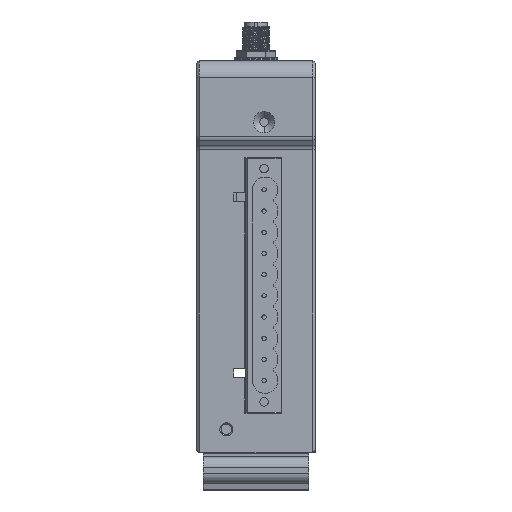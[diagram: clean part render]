
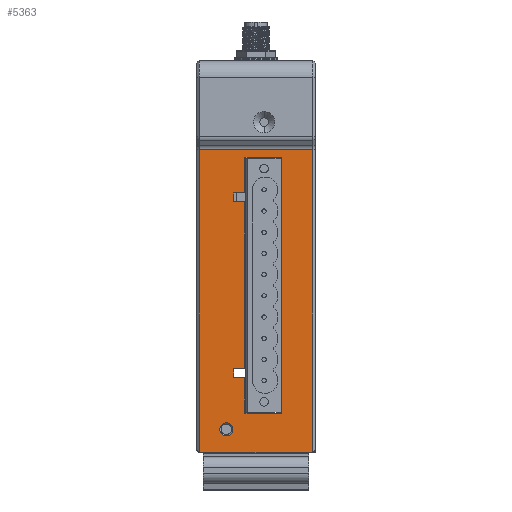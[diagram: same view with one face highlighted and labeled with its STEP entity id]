
A CAD part, left-side view. The second image highlights one B-rep face of the part: STEP entity #5363.
In plain terms, the highlighted planar face has unit normal (-1, 0, 0).
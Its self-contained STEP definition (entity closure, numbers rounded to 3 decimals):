
#353=CARTESIAN_POINT('',(-62.5,13.4,-44.917));
#1190=DIRECTION('',(0.,1.,0.));
#1191=VECTOR('',#1190,26.8);
#1192=CARTESIAN_POINT('',(-62.5,-13.4,
26.5));
#1193=LINE('',#1192,#1191);
#1198=DIRECTION('',(0.,1.,0.));
#1199=VECTOR('',#1198,26.);
#1200=CARTESIAN_POINT('',(-62.5,-13.,-45.));
#1201=LINE('',#1200,#1199);
#1202=CARTESIAN_POINT('',(-62.5,13.,-44.));
#1203=DIRECTION('',(1.,0.,0.));
#1204=DIRECTION('',(0.,0.,-1.));
#1205=AXIS2_PLACEMENT_3D('',#1202,#1203,#1204);
#1207=DIRECTION('',(0.,0.,1.));
#1208=VECTOR('',#1207,71.417);
#1209=CARTESIAN_POINT('',(-62.5,13.4,
-44.917));
#1210=LINE('',#1209,#1208);
#1211=CARTESIAN_POINT('',(-62.5,-13.,-44.));
#1212=DIRECTION('',(1.,0.,0.));
#1213=DIRECTION('',(0.,-0.4,-0.917));
#1214=AXIS2_PLACEMENT_3D('',#1211,#1212,#1213);
#1216=DIRECTION('',(0.,1.,0.));
#1217=VECTOR('',#1216,2.6);
#1218=CARTESIAN_POINT('',(-62.5,2.6,-25.175));
#1219=LINE('',#1218,#1217);
#1220=DIRECTION('',(0.,-1.,0.));
#1221=VECTOR('',#1220,2.6);
#1222=CARTESIAN_POINT('',(-62.5,5.2,-27.275));
#1223=LINE('',#1222,#1221);
#1224=DIRECTION('',(0.,0.,-1.));
#1225=VECTOR('',#1224,8.425);
#1226=CARTESIAN_POINT('',(-62.5,2.6,-27.275));
#1227=LINE('',#1226,#1225);
#1228=DIRECTION('',(0.,-1.,0.));
#1229=VECTOR('',#1228,8.6);
#1230=CARTESIAN_POINT('',(-62.5,2.6,-35.7));
#1231=LINE('',#1230,#1229);
#1232=DIRECTION('',(0.,0.,1.));
#1233=VECTOR('',#1232,60.4);
#1234=CARTESIAN_POINT('',(-62.5,-6.,-35.7));
#1235=LINE('',#1234,#1233);
#1236=DIRECTION('',(0.,1.,0.));
#1237=VECTOR('',#1236,8.6);
#1238=CARTESIAN_POINT('',(-62.5,-6.,24.7));
#1239=LINE('',#1238,#1237);
#1240=DIRECTION('',(0.,0.,-1.));
#1241=VECTOR('',#1240,8.425);
#1242=CARTESIAN_POINT('',(-62.5,2.6,24.7));
#1243=LINE('',#1242,#1241);
#1244=DIRECTION('',(0.,1.,0.));
#1245=VECTOR('',#1244,2.6);
#1246=CARTESIAN_POINT('',(-62.5,2.6,16.275));
#1247=LINE('',#1246,#1245);
#1248=DIRECTION('',(0.,0.,-1.));
#1249=VECTOR('',#1248,2.1);
#1250=CARTESIAN_POINT('',(-62.5,5.2,16.275));
#1251=LINE('',#1250,#1249);
#1252=DIRECTION('',(0.,-1.,0.));
#1253=VECTOR('',#1252,2.6);
#1254=CARTESIAN_POINT('',(-62.5,5.2,14.175));
#1255=LINE('',#1254,#1253);
#1256=DIRECTION('',(0.,0.,-1.));
#1257=VECTOR('',#1256,39.35);
#1258=CARTESIAN_POINT('',(-62.5,2.6,14.175));
#1259=LINE('',#1258,#1257);
#1260=CARTESIAN_POINT('',(-62.5,7.,-39.5));
#1261=DIRECTION('',(-1.,0.,0.));
#1262=DIRECTION('',(0.,0.,1.));
#1263=AXIS2_PLACEMENT_3D('',#1260,#1261,#1262);
#1265=CARTESIAN_POINT('',(-62.5,7.,-39.5));
#1266=DIRECTION('',(-1.,0.,0.));
#1267=DIRECTION('',(0.,0.,-1.));
#1268=AXIS2_PLACEMENT_3D('',#1265,#1266,#1267);
#1341=DIRECTION('',(0.,0.,1.));
#1342=VECTOR('',#1341,71.417);
#1343=CARTESIAN_POINT('',(-62.5,-13.4,
-44.917));
#1344=LINE('',#1343,#1342);
#1796=DIRECTION('',(0.,0.,1.));
#1797=VECTOR('',#1796,2.1);
#1798=CARTESIAN_POINT('',(-62.5,5.2,-27.275));
#1799=LINE('',#1798,#1797);
#3461=CARTESIAN_POINT('',(-62.5,13.,-45.));
#3462=VERTEX_POINT('',#3461);
#3465=VERTEX_POINT('',#353);
#3474=CARTESIAN_POINT('',(-62.5,-13.,-45.));
#3475=VERTEX_POINT('',#3474);
#3730=CARTESIAN_POINT('',(-62.5,-13.4,
26.5));
#3731=CARTESIAN_POINT('',(-62.5,13.4,26.5));
#3732=VERTEX_POINT('',#3730);
#3733=VERTEX_POINT('',#3731);
#3734=CARTESIAN_POINT('',(-62.5,-13.4,
-44.917));
#3735=VERTEX_POINT('',#3734);
#3736=CARTESIAN_POINT('',(-62.5,2.6,-25.175));
#3737=CARTESIAN_POINT('',(-62.5,5.2,-25.175));
#3738=VERTEX_POINT('',#3736);
#3739=VERTEX_POINT('',#3737);
#3740=CARTESIAN_POINT('',(-62.5,5.2,-27.275));
#3741=VERTEX_POINT('',#3740);
#3742=CARTESIAN_POINT('',(-62.5,2.6,-27.275));
#3743=VERTEX_POINT('',#3742);
#3744=CARTESIAN_POINT('',(-62.5,2.6,-35.7));
#3745=VERTEX_POINT('',#3744);
#3746=CARTESIAN_POINT('',(-62.5,-6.,-35.7));
#3747=VERTEX_POINT('',#3746);
#3748=CARTESIAN_POINT('',(-62.5,-6.,24.7));
#3749=VERTEX_POINT('',#3748);
#3750=CARTESIAN_POINT('',(-62.5,2.6,24.7));
#3751=VERTEX_POINT('',#3750);
#3752=CARTESIAN_POINT('',(-62.5,2.6,16.275));
#3753=VERTEX_POINT('',#3752);
#3754=CARTESIAN_POINT('',(-62.5,5.2,16.275));
#3755=VERTEX_POINT('',#3754);
#3756=CARTESIAN_POINT('',(-62.5,5.2,14.175));
#3757=VERTEX_POINT('',#3756);
#3758=CARTESIAN_POINT('',(-62.5,2.6,14.175));
#3759=VERTEX_POINT('',#3758);
#3760=CARTESIAN_POINT('',(-62.5,7.,
-37.95));
#3761=CARTESIAN_POINT('',(-62.5,7.,-41.05));
#3762=VERTEX_POINT('',#3760);
#3763=VERTEX_POINT('',#3761);
#5315=CARTESIAN_POINT('',(-62.5,-14.,-45.));
#5316=DIRECTION('',(-1.,0.,0.));
#5317=DIRECTION('',(0.,0.,1.));
#5318=AXIS2_PLACEMENT_3D('',#5315,#5316,#5317);
#5319=PLANE('',#5318);
#5320=ORIENTED_EDGE('',*,*,#4605,.T.);
#5321=ORIENTED_EDGE('',*,*,#4585,.T.);
#5323=ORIENTED_EDGE('',*,*,#5322,.T.);
#5324=ORIENTED_EDGE('',*,*,#5305,.F.);
#5326=ORIENTED_EDGE('',*,*,#5325,.F.);
#5328=ORIENTED_EDGE('',*,*,#5327,.T.);
#5329=EDGE_LOOP('',(#5320,#5321,#5323,#5324,#5326,#5328));
#5330=FACE_OUTER_BOUND('',#5329,.F.);
#5332=ORIENTED_EDGE('',*,*,#5331,.T.);
#5334=ORIENTED_EDGE('',*,*,#5333,.F.);
#5336=ORIENTED_EDGE('',*,*,#5335,.T.);
#5338=ORIENTED_EDGE('',*,*,#5337,.T.);
#5340=ORIENTED_EDGE('',*,*,#5339,.T.);
#5342=ORIENTED_EDGE('',*,*,#5341,.T.);
#5344=ORIENTED_EDGE('',*,*,#5343,.T.);
#5346=ORIENTED_EDGE('',*,*,#5345,.T.);
#5348=ORIENTED_EDGE('',*,*,#5347,.T.);
#5350=ORIENTED_EDGE('',*,*,#5349,.T.);
#5352=ORIENTED_EDGE('',*,*,#5351,.T.);
#5354=ORIENTED_EDGE('',*,*,#5353,.T.);
#5355=EDGE_LOOP('',(#5332,#5334,#5336,#5338,#5340,#5342,#5344,#5346,#5348,#5350,
#5352,#5354));
#5356=FACE_BOUND('',#5355,.F.);
#5358=ORIENTED_EDGE('',*,*,#5357,.T.);
#5360=ORIENTED_EDGE('',*,*,#5359,.T.);
#5361=EDGE_LOOP('',(#5358,#5360));
#5362=FACE_BOUND('',#5361,.F.);
#1206=CIRCLE('',#1205,1.);
#1215=CIRCLE('',#1214,1.);
#1264=CIRCLE('',#1263,1.55);
#1269=CIRCLE('',#1268,1.55);
#4585=EDGE_CURVE('',#3462,#3465,#1206,.T.);
#4605=EDGE_CURVE('',#3475,#3462,#1201,.T.);
#5305=EDGE_CURVE('',#3732,#3733,#1193,.T.);
#5322=EDGE_CURVE('',#3465,#3733,#1210,.T.);
#5325=EDGE_CURVE('',#3735,#3732,#1344,.T.);
#5327=EDGE_CURVE('',#3735,#3475,#1215,.T.);
#5331=EDGE_CURVE('',#3738,#3739,#1219,.T.);
#5333=EDGE_CURVE('',#3741,#3739,#1799,.T.);
#5335=EDGE_CURVE('',#3741,#3743,#1223,.T.);
#5337=EDGE_CURVE('',#3743,#3745,#1227,.T.);
#5339=EDGE_CURVE('',#3745,#3747,#1231,.T.);
#5341=EDGE_CURVE('',#3747,#3749,#1235,.T.);
#5343=EDGE_CURVE('',#3749,#3751,#1239,.T.);
#5345=EDGE_CURVE('',#3751,#3753,#1243,.T.);
#5347=EDGE_CURVE('',#3753,#3755,#1247,.T.);
#5349=EDGE_CURVE('',#3755,#3757,#1251,.T.);
#5351=EDGE_CURVE('',#3757,#3759,#1255,.T.);
#5353=EDGE_CURVE('',#3759,#3738,#1259,.T.);
#5357=EDGE_CURVE('',#3762,#3763,#1264,.T.);
#5359=EDGE_CURVE('',#3763,#3762,#1269,.T.);
#5363=ADVANCED_FACE('',(#5330,#5356,#5362),#5319,.T.);
